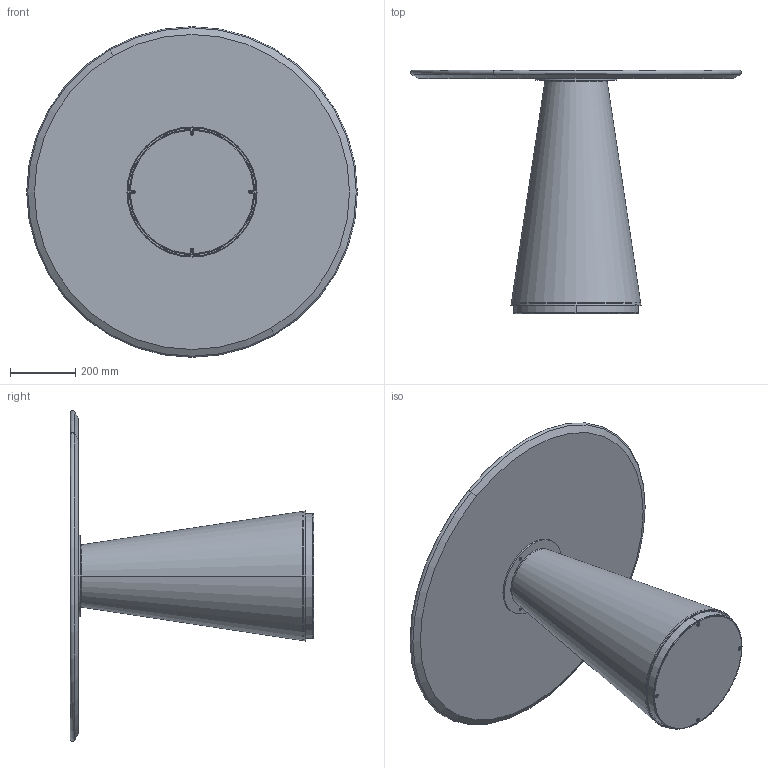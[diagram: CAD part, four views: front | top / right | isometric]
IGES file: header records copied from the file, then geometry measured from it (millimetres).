
Start section: SolidWorks IGES file using analytic representation for surfaces
Global section: file name: Y:\eforma\TECNICO\SOLIDWORKS\E-FORMA\5-TAVOLINI BISTRO\TED\02 parts\TE30B.IGS; native system: SolidWorks 2022; preprocessor: SolidWorks 2022; author: eforma.tech; date: 240808.094856; units: millimetre
Bounding box: 1016.79 x 748.5 x 1016.79 mm (x, y, z)
Volume: 21109557.3 mm3; surface area: 5074145.3 mm2
Topology: 15 solids, 15 shells, 373 faces, 785 edges, 436 vertices
Faces by surface type: revolution 195, plane 178
